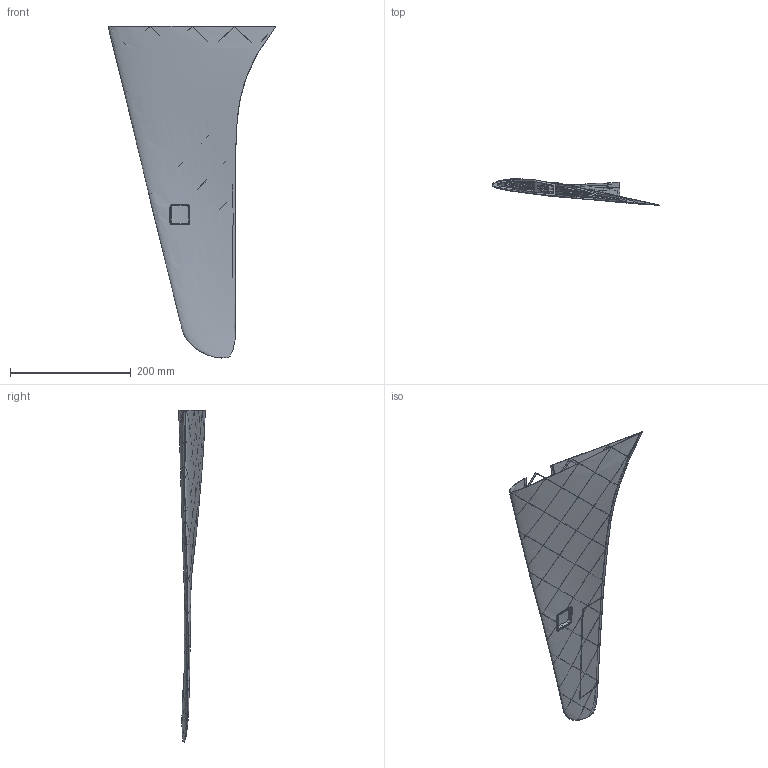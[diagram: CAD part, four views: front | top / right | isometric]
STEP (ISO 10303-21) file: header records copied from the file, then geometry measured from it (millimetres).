
FILE_DESCRIPTION (( 'STEP AP203' ), '1' );
FILE_NAME ('fvt- vDirk v5 3D-print.STEP', '2025-11-30T10:34:20', ( '' ), ( '' ), 'SwSTEP 2.0', 'SolidWorks 2024', '' );
FILE_SCHEMA (( 'CONFIG_CONTROL_DESIGN' ));
Products named in the file (3): fvt- vDirk v5 3D-print; Ribben v5 3D-print
Assembly tree (2 placements, depth 2):
  fvt- vDirk v5 3D-print
    fvt- vDirk v5 3D-print
    Ribben v5 3D-print
Bounding box: 278.1 x 44.08 x 549.69 mm (x, y, z)
Volume: 10973.3 mm3; surface area: 299760.4 mm2
Topology: 1 solids, 2 shells, 853 faces, 2540 edges, 1690 vertices
Faces by surface type: plane 341, bspline 268, cylinder 244
Entity records: 126466 total; most frequent: CARTESIAN_POINT 105577, ORIENTED_EDGE 5080, DIRECTION 3008, EDGE_CURVE 2540, VERTEX_POINT 1690, B_SPLINE_CURVE_WITH_KNOTS 1188, AXIS2_PLACEMENT_3D 1066, EDGE_LOOP 1050
